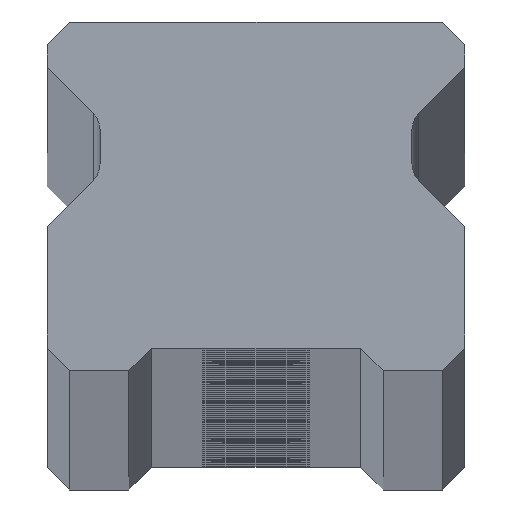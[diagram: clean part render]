
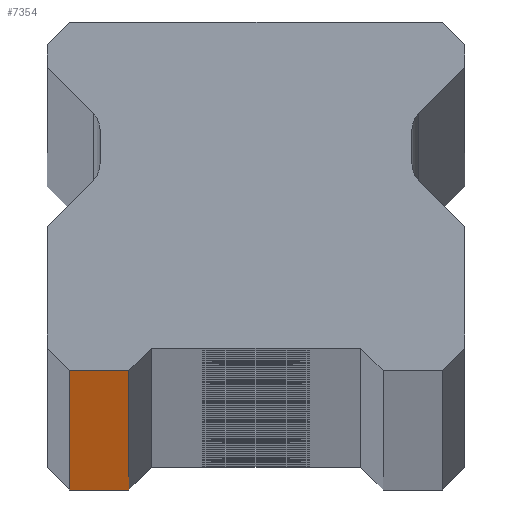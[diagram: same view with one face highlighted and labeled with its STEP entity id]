
A CAD part, top view. The second image highlights one B-rep face of the part: STEP entity #7354.
In plain terms, the highlighted planar face has unit normal (0, -1, 0).
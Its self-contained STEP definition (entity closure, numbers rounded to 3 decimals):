
#85 = VECTOR ( 'NONE', #3489, 1000. ) ;
#1092 = EDGE_CURVE ( 'NONE', #11710, #3438, #5060, .T. ) ;
#1617 = CARTESIAN_POINT ( 'NONE',  ( 11.5, 0., 1880. ) ) ;
#1926 = EDGE_CURVE ( 'NONE', #3438, #3776, #4279, .T. ) ;
#2003 = EDGE_CURVE ( 'NONE', #6581, #3776, #8499, .T. ) ;
#2471 = AXIS2_PLACEMENT_3D ( 'NONE', #1617, #12168, #3635 ) ;
#3438 = VERTEX_POINT ( 'NONE', #5538 ) ;
#3489 = DIRECTION ( 'NONE',  ( 0., 0., 1. ) ) ;
#3635 = DIRECTION ( 'NONE',  ( -1., 0., 0. ) ) ;
#3776 = VERTEX_POINT ( 'NONE', #8926 ) ;
#4169 = ORIENTED_EDGE ( 'NONE', *, *, #8385, .T. ) ;
#4279 = LINE ( 'NONE', #8263, #85 ) ;
#4454 = VECTOR ( 'NONE', #12018, 1000. ) ;
#4463 = DIRECTION ( 'NONE',  ( 1., 0., 0. ) ) ;
#4747 = VECTOR ( 'NONE', #8521, 1000. ) ;
#4909 = LINE ( 'NONE', #9835, #4454 ) ;
#5060 = LINE ( 'NONE', #5797, #4747 ) ;
#5325 = ORIENTED_EDGE ( 'NONE', *, *, #2003, .F. ) ;
#5538 = CARTESIAN_POINT ( 'NONE',  ( -7., 0., -1880. ) ) ;
#5797 = CARTESIAN_POINT ( 'NONE',  ( 11.5, 0., -1880. ) ) ;
#6581 = VERTEX_POINT ( 'NONE', #12274 ) ;
#7354 = ADVANCED_FACE ( 'NONE', ( #9639 ), #11150, .F. ) ;
#7984 = ORIENTED_EDGE ( 'NONE', *, *, #1926, .T. ) ;
#8263 = CARTESIAN_POINT ( 'NONE',  ( -7., 0., -1880. ) ) ;
#8385 = EDGE_CURVE ( 'NONE', #6581, #11710, #4909, .T. ) ;
#8499 = LINE ( 'NONE', #10147, #10905 ) ;
#8521 = DIRECTION ( 'NONE',  ( 1., 0., 0. ) ) ;
#8910 = ORIENTED_EDGE ( 'NONE', *, *, #1092, .T. ) ;
#8926 = CARTESIAN_POINT ( 'NONE',  ( -7., 0., 1880. ) ) ;
#9639 = FACE_OUTER_BOUND ( 'NONE', #11942, .T. ) ;
#9727 = CARTESIAN_POINT ( 'NONE',  ( -10.25, 0., -1880. ) ) ;
#9835 = CARTESIAN_POINT ( 'NONE',  ( -10.25, 0., 1880. ) ) ;
#10147 = CARTESIAN_POINT ( 'NONE',  ( 11.5, 0., 1880. ) ) ;
#10905 = VECTOR ( 'NONE', #4463, 1000. ) ;
#11150 = PLANE ( 'NONE',  #2471 ) ;
#11710 = VERTEX_POINT ( 'NONE', #9727 ) ;
#11942 = EDGE_LOOP ( 'NONE', ( #8910, #7984, #5325, #4169 ) ) ;
#12018 = DIRECTION ( 'NONE',  ( 0., 0., -1. ) ) ;
#12168 = DIRECTION ( 'NONE',  ( 0., 1., 0. ) ) ;
#12274 = CARTESIAN_POINT ( 'NONE',  ( -10.25, 0., 1880. ) ) ;
